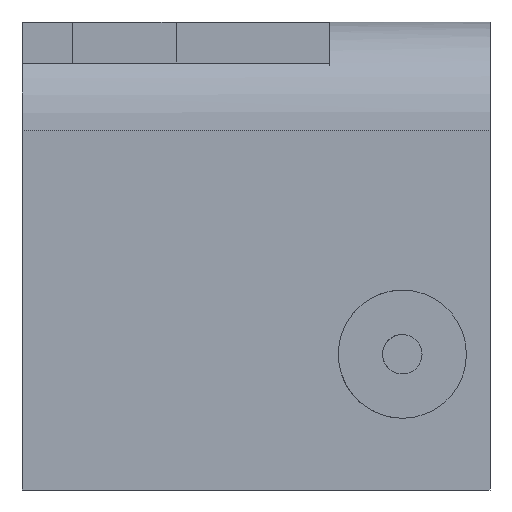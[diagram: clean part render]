
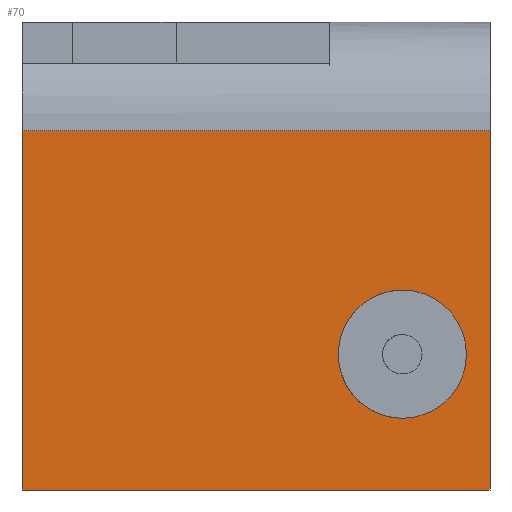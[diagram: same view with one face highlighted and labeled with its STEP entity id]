
A CAD part, front view. The second image highlights one B-rep face of the part: STEP entity #70.
In plain terms, the highlighted planar face has unit normal (0, -1, 0).
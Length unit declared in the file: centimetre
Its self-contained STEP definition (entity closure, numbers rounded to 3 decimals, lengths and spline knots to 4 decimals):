
#21 = AXIS2_PLACEMENT_3D ( 'NONE', #715, #321, #1091 ) ;
#38 = VERTEX_POINT ( 'NONE', #293 ) ;
#61 = VERTEX_POINT ( 'NONE', #325 ) ;
#64 = EDGE_CURVE ( 'NONE', #823, #737, #1141, .T. ) ;
#67 = ORIENTED_EDGE ( 'NONE', *, *, #455, .T. ) ;
#70 = ADVANCED_FACE ( 'NONE', ( #225, #802 ), #614, .F. ) ;
#131 = EDGE_LOOP ( 'NONE', ( #137, #637 ) ) ;
#136 = DIRECTION ( 'NONE',  ( 0., 0., -1. ) ) ;
#137 = ORIENTED_EDGE ( 'NONE', *, *, #64, .F. ) ;
#149 = VECTOR ( 'NONE', #690, 100. ) ;
#225 = FACE_BOUND ( 'NONE', #131, .T. ) ;
#250 = DIRECTION ( 'NONE',  ( 0., 0., -1. ) ) ;
#293 = CARTESIAN_POINT ( 'NONE',  ( 1000., 0., 0. ) ) ;
#321 = DIRECTION ( 'NONE',  ( 0., 1., 0. ) ) ;
#325 = CARTESIAN_POINT ( 'NONE',  ( 0., 0., 767.2591 ) ) ;
#344 = DIRECTION ( 'NONE',  ( 0., -1., 0. ) ) ;
#362 = DIRECTION ( 'NONE',  ( 0., -1., 0. ) ) ;
#369 = CARTESIAN_POINT ( 'NONE',  ( 812.6461, 0., 153.2507 ) ) ;
#372 = EDGE_CURVE ( 'NONE', #612, #38, #1133, .T. ) ;
#389 = CARTESIAN_POINT ( 'NONE',  ( 812.6461, 0., 427.2081 ) ) ;
#409 = LINE ( 'NONE', #883, #666 ) ;
#439 = CARTESIAN_POINT ( 'NONE',  ( 812.6461, 0., 290.2294 ) ) ;
#455 = EDGE_CURVE ( 'NONE', #1199, #61, #409, .T. ) ;
#525 = EDGE_CURVE ( 'NONE', #61, #612, #778, .T. ) ;
#530 = EDGE_LOOP ( 'NONE', ( #833, #67, #1033, #987 ) ) ;
#612 = VERTEX_POINT ( 'NONE', #1112 ) ;
#614 = PLANE ( 'NONE',  #21 ) ;
#637 = ORIENTED_EDGE ( 'NONE', *, *, #772, .F. ) ;
#658 = DIRECTION ( 'NONE',  ( 1., 0., 0. ) ) ;
#666 = VECTOR ( 'NONE', #873, 100. ) ;
#690 = DIRECTION ( 'NONE',  ( 0., 0., -1. ) ) ;
#703 = VECTOR ( 'NONE', #250, 100. ) ;
#715 = CARTESIAN_POINT ( 'NONE',  ( 0., 0., 1000. ) ) ;
#730 = DIRECTION ( 'NONE',  ( 0., 0., -1. ) ) ;
#737 = VERTEX_POINT ( 'NONE', #389 ) ;
#772 = EDGE_CURVE ( 'NONE', #737, #823, #1223, .T. ) ;
#778 = LINE ( 'NONE', #797, #149 ) ;
#797 = CARTESIAN_POINT ( 'NONE',  ( 0., 0., 1000. ) ) ;
#802 = FACE_OUTER_BOUND ( 'NONE', #530, .T. ) ;
#820 = EDGE_CURVE ( 'NONE', #1199, #38, #831, .T. ) ;
#823 = VERTEX_POINT ( 'NONE', #369 ) ;
#831 = LINE ( 'NONE', #1218, #703 ) ;
#833 = ORIENTED_EDGE ( 'NONE', *, *, #820, .F. ) ;
#873 = DIRECTION ( 'NONE',  ( -1., 0., 0. ) ) ;
#883 = CARTESIAN_POINT ( 'NONE',  ( 0., 0., 767.2591 ) ) ;
#925 = AXIS2_PLACEMENT_3D ( 'NONE', #1087, #344, #136 ) ;
#987 = ORIENTED_EDGE ( 'NONE', *, *, #372, .T. ) ;
#1033 = ORIENTED_EDGE ( 'NONE', *, *, #525, .T. ) ;
#1037 = CARTESIAN_POINT ( 'NONE',  ( 0., 0., 0. ) ) ;
#1047 = CARTESIAN_POINT ( 'NONE',  ( 1000., 0., 767.2591 ) ) ;
#1087 = CARTESIAN_POINT ( 'NONE',  ( 812.6461, 0., 290.2294 ) ) ;
#1091 = DIRECTION ( 'NONE',  ( 0., 0., 1. ) ) ;
#1112 = CARTESIAN_POINT ( 'NONE',  ( 0., 0., 0. ) ) ;
#1123 = AXIS2_PLACEMENT_3D ( 'NONE', #439, #362, #730 ) ;
#1133 = LINE ( 'NONE', #1037, #1205 ) ;
#1141 = CIRCLE ( 'NONE', #925, 136.9787 ) ;
#1199 = VERTEX_POINT ( 'NONE', #1047 ) ;
#1205 = VECTOR ( 'NONE', #658, 100. ) ;
#1218 = CARTESIAN_POINT ( 'NONE',  ( 1000., 0., 1000. ) ) ;
#1223 = CIRCLE ( 'NONE', #1123, 136.9787 ) ;
